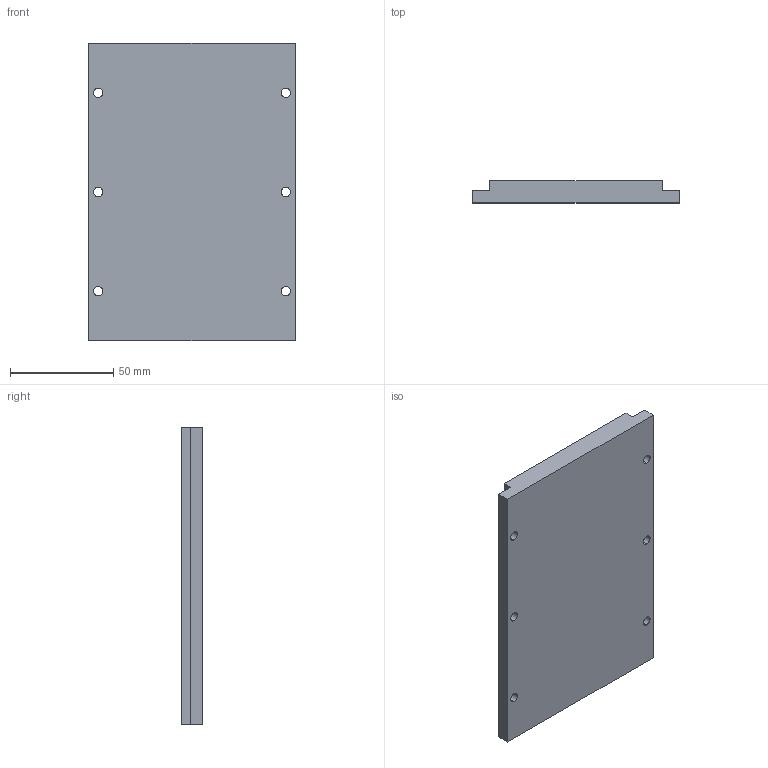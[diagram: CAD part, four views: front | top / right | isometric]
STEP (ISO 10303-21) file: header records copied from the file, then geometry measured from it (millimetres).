
FILE_DESCRIPTION (( 'STEP AP214' ), '1' );
FILE_NAME ('TLT-100-L144.STEP', '2022-04-13T09:28:00', ( 'Microsoft' ), ( 'Microsoft' ), 'SwSTEP 2.0', 'SolidWorks 2016', '' );
FILE_SCHEMA (( 'AUTOMOTIVE_DESIGN' ));
Length unit declared in the file: millimetre
Products named in the file (1): TLT-100-L144
Bounding box: 100 x 10.5 x 144 mm (x, y, z)
Volume: 139935.4 mm3; surface area: 34093.6 mm2
Topology: 1 solids, 1 shells, 22 faces, 60 edges, 40 vertices
Faces by surface type: cylinder 12, plane 10
Entity records: 766 total; most frequent: DIRECTION 130, CARTESIAN_POINT 123, ORIENTED_EDGE 120, EDGE_CURVE 60, AXIS2_PLACEMENT_3D 47, VERTEX_POINT 40, LINE 36, VECTOR 36
